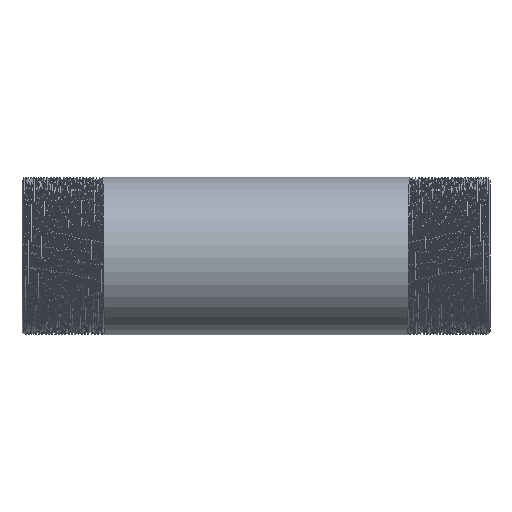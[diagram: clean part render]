
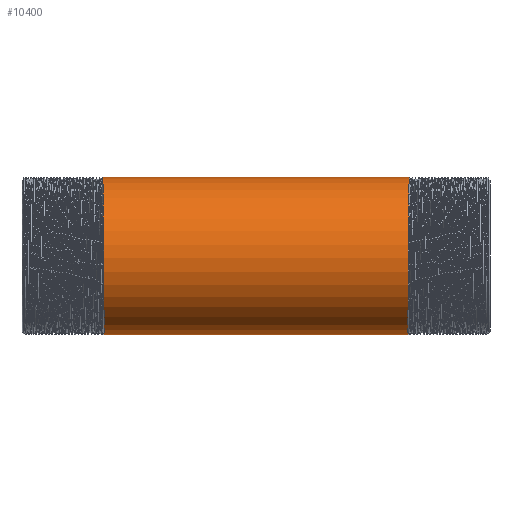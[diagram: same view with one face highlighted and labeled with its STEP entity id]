
A CAD part, front view. The second image highlights one B-rep face of the part: STEP entity #10400.
In plain terms, the highlighted cylindrical face has radius 16.85 mm (diameter 33.7 mm), a partial arc.
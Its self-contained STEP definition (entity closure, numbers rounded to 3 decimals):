
#842 = CARTESIAN_POINT ( 'NONE',  ( 32.446, -9.728, -16.85 ) ) ;
#1445 = ORIENTED_EDGE ( 'NONE', *, *, #8875, .T. ) ;
#1633 = CARTESIAN_POINT ( 'NONE',  ( -32.738, 0., 16.85 ) ) ;
#1781 = CARTESIAN_POINT ( 'NONE',  ( -32.446, -9.728, -16.85 ) ) ;
#3092 = CARTESIAN_POINT ( 'NONE',  ( -32.738, 0., 16.85 ) ) ;
#3176 = CARTESIAN_POINT ( 'NONE',  ( -149.494, 0., -16.85 ) ) ;
#3272 = VECTOR ( 'NONE', #7576, 1000. ) ;
#3354 = DIRECTION ( 'NONE',  ( -1., 0., 0. ) ) ;
#3453 = CARTESIAN_POINT ( 'NONE',  ( -32.388, 0., -16.85 ) ) ;
#3674 =( BOUNDED_CURVE ( )  B_SPLINE_CURVE ( 2, ( #3453, #1781, #7690, #7509, #16004, #13356, #3092 ),
 .UNSPECIFIED., .F., .F. ) 
 B_SPLINE_CURVE_WITH_KNOTS ( ( 3, 2, 2, 3 ),
 ( 0., 0.005, 0.01, 0.016 ),
 .UNSPECIFIED. ) 
 CURVE ( )  GEOMETRIC_REPRESENTATION_ITEM ( )  RATIONAL_B_SPLINE_CURVE ( ( 1., 0.866, 1., 0.866, 1., 0.866, 1. ) ) 
 REPRESENTATION_ITEM ( '' )  );
#4149 = DIRECTION ( 'NONE',  ( -1., 0., 0. ) ) ;
#4197 = CARTESIAN_POINT ( 'NONE',  ( 32.679, -9.728, 16.85 ) ) ;
#4745 = CARTESIAN_POINT ( 'NONE',  ( -149.494, 0., 16.85 ) ) ;
#4782 = VECTOR ( 'NONE', #3354, 1000. ) ;
#4809 = VERTEX_POINT ( 'NONE', #5009 ) ;
#5009 = CARTESIAN_POINT ( 'NONE',  ( -32.388, 0., -16.85 ) ) ;
#5698 = CARTESIAN_POINT ( 'NONE',  ( 32.388, 0., -16.85 ) ) ;
#5943 = CARTESIAN_POINT ( 'NONE',  ( 32.388, 0., -16.85 ) ) ;
#6172 = VERTEX_POINT ( 'NONE', #1633 ) ;
#6738 = EDGE_CURVE ( 'NONE', #11191, #4809, #16087, .T. ) ;
#6785 = FACE_OUTER_BOUND ( 'NONE', #12325, .T. ) ;
#6871 = CARTESIAN_POINT ( 'NONE',  ( -149.494, 0., 0. ) ) ;
#7509 = CARTESIAN_POINT ( 'NONE',  ( -32.563, -19.457, 0. ) ) ;
#7576 = DIRECTION ( 'NONE',  ( -1., 0., 0. ) ) ;
#7690 = CARTESIAN_POINT ( 'NONE',  ( -32.504, -14.593, -8.425 ) ) ;
#8090 = CARTESIAN_POINT ( 'NONE',  ( 32.621, -14.593, 8.425 ) ) ;
#8629 = CARTESIAN_POINT ( 'NONE',  ( 32.563, -19.457, 0. ) ) ;
#8875 = EDGE_CURVE ( 'NONE', #14761, #6172, #17379, .T. ) ;
#10400 = ADVANCED_FACE ( 'NONE', ( #6785 ), #15563, .T. ) ;
#11191 = VERTEX_POINT ( 'NONE', #5943 ) ;
#11355 = CARTESIAN_POINT ( 'NONE',  ( 32.504, -14.593, -8.425 ) ) ;
#11848 = EDGE_CURVE ( 'NONE', #11191, #14761, #15959, .T. ) ;
#11900 = CARTESIAN_POINT ( 'NONE',  ( 32.738, 0., 16.85 ) ) ;
#12325 = EDGE_LOOP ( 'NONE', ( #17471, #14035, #1445, #14124 ) ) ;
#13356 = CARTESIAN_POINT ( 'NONE',  ( -32.679, -9.728, 16.85 ) ) ;
#14035 = ORIENTED_EDGE ( 'NONE', *, *, #11848, .T. ) ;
#14124 = ORIENTED_EDGE ( 'NONE', *, *, #17779, .F. ) ;
#14761 = VERTEX_POINT ( 'NONE', #11900 ) ;
#15563 = CYLINDRICAL_SURFACE ( 'NONE', #16415, 16.85 ) ;
#15610 = CARTESIAN_POINT ( 'NONE',  ( 32.738, 0., 16.85 ) ) ;
#15959 =( BOUNDED_CURVE ( )  B_SPLINE_CURVE ( 2, ( #5698, #842, #11355, #8629, #8090, #4197, #15610 ),
 .UNSPECIFIED., .F., .F. ) 
 B_SPLINE_CURVE_WITH_KNOTS ( ( 3, 2, 2, 3 ),
 ( 0., 0.005, 0.01, 0.016 ),
 .UNSPECIFIED. ) 
 CURVE ( )  GEOMETRIC_REPRESENTATION_ITEM ( )  RATIONAL_B_SPLINE_CURVE ( ( 1., 0.866, 1., 0.866, 1., 0.866, 1. ) ) 
 REPRESENTATION_ITEM ( '' )  );
#16004 = CARTESIAN_POINT ( 'NONE',  ( -32.621, -14.593, 8.425 ) ) ;
#16087 = LINE ( 'NONE', #3176, #4782 ) ;
#16415 = AXIS2_PLACEMENT_3D ( 'NONE', #6871, #4149, #16875 ) ;
#16875 = DIRECTION ( 'NONE',  ( 0., 0., 1. ) ) ;
#17379 = LINE ( 'NONE', #4745, #3272 ) ;
#17471 = ORIENTED_EDGE ( 'NONE', *, *, #6738, .F. ) ;
#17779 = EDGE_CURVE ( 'NONE', #4809, #6172, #3674, .T. ) ;
